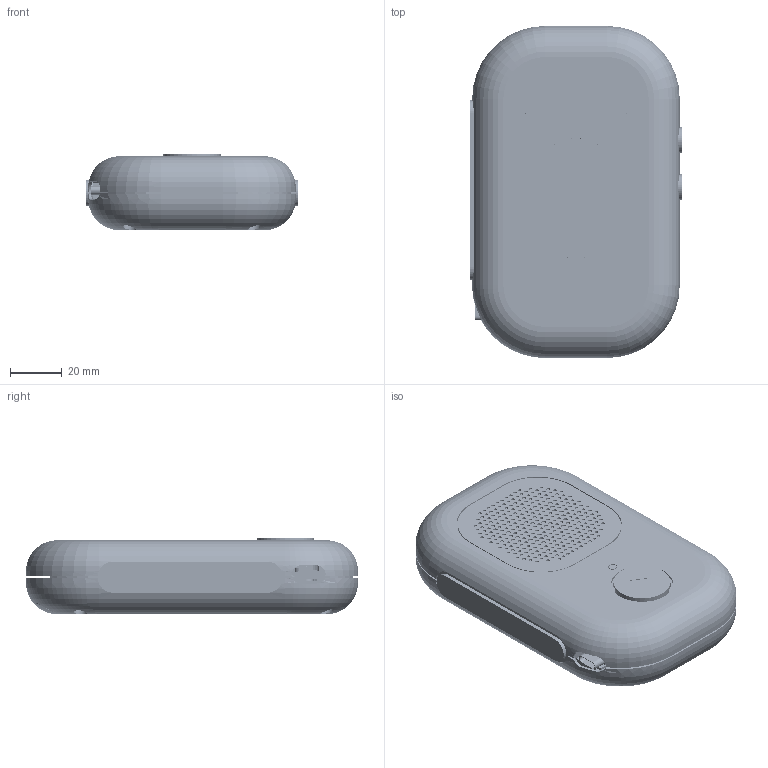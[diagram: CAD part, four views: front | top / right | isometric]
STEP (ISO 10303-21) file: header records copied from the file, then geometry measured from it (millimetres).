
FILE_DESCRIPTION(('Open CASCADE Model'),'2;1');
FILE_NAME('Open CASCADE Shape Model','2026-09-08T16:14:26',('Author'),( 'Open CASCADE'),'Open CASCADE STEP processor 7.7','Open CASCADE 7.7' ,'Unknown');
FILE_SCHEMA(('AUTOMOTIVE_DESIGN { 1 0 10303 214 1 1 1 1 }'));
Length unit declared in the file: millimetre
Products named in the file (112): Walkie_One_23_2_SWITCH_RETENTION_SR1; 13_volume_up_diaphragm; 13_volume_up_diaphragm_part; 15_battery_isolation; 15_battery_isolation_part; 18_M2x20_rear_2; 18_M2x20_rear_2_part; 18_M2x20_rear_3; 18_M2x20_rear_3_part; 11_status_lightpipe; 11_status_lightpipe_part; 08_play_guide; 08_play_guide_part; 18_M2x20_rear_4; 18_M2x20_rear_4_part; 13_volume_down_diaphragm; 13_volume_down_diaphragm_part; 19_speaker_cradle; 19_speaker_cradle_part; 09_play_cap; 09_play_cap_part; FRONT_SWITCH_REACTION_PLATE; FRONT_SWITCH_REACTION_PLATE_part; 21_RF_window_bond; 21_RF_window_bond_part; 10_play_actuator; 10_play_actuator_part; 13_PTT_diaphragm; 13_PTT_diaphragm_part; 12_volume_down_cap; 12_volume_down_cap_part; 03_insulating_chassis; 03_insulating_chassis_part; 16_PCB_rail_R; 16_PCB_rail_R_part; FRONT_SWITCH_GUIDE_AND_MOUNT; FRONT_SWITCH_GUIDE_AND_MOUNT_part; 05_perforated_grille; 05_perforated_grille_part; 02_rear_stainless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
Assembly tree (111 placements, depth 4):
  Walkie_One_23_2_SWITCH_RETENTION_SR1
    Walkie_One_23_2_SWITCH_RETENTION_SR1
      13_volume_up_diaphragm
        13_volume_up_diaphragm_part
      15_battery_isolation
        15_battery_isolation_part
      18_M2x20_rear_2
        18_M2x20_rear_2_part
      18_M2x20_rear_3
        18_M2x20_rear_3_part
      11_status_lightpipe
        11_status_lightpipe_part
      08_play_guide
        08_play_guide_part
      18_M2x20_rear_4
        18_M2x20_rear_4_part
      13_volume_down_diaphragm
        13_volume_down_diaphragm_part
      19_speaker_cradle
        19_speaker_cradle_part
      09_play_cap
        09_play_cap_part
      FRONT_SWITCH_REACTION_PLATE
        FRONT_SWITCH_REACTION_PLATE_part
      21_RF_window_bond
        21_RF_window_bond_part
      10_play_actuator
        10_play_actuator_part
      13_PTT_diaphragm
        13_PTT_diaphragm_part
      12_volume_down_cap
        12_volume_down_cap_part
      03_insulating_chassis
        03_insulating_chassis_part
      16_PCB_rail_R
        16_PCB_rail_R_part
      FRONT_SWITCH_GUIDE_AND_MOUNT
        FRONT_SWITCH_GUIDE_AND_MOUNT_part
      05_perforated_grille
        05_perforated_grille_part
      02_rear_stainless
        02_rear_stainless_part
      01_front_stainless
        01_front_stainless_part
      12_volume_up_cap
        12_volume_up_cap_part
      06_grille_support
        06_grille_support_part
      07_grille_bond
        07_grille_bond_part
      14_battery_tray
        14_battery_tray_part
      12_PTT_cap
        12_PTT_cap_part
      18_M2x20_rear_1
        18_M2x20_rear_1_part
      16_PCB_rail_L
        16_PCB_rail_L_part
      04_RF_rear_window
        04_RF_rear_window_part
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Bounding box: 81.4 x 128 x 29.4 mm (x, y, z)
Volume: 106595.8 mm3; surface area: 137825.8 mm2
Topology: 385 solids, 1750 shells, 16021 faces, 44611 edges, 30793 vertices
Faces by surface type: plane 11545, cylinder 2804, bspline 1534, torus 80, cone 30, sphere 28
Full cylindrical faces by diameter (mm): 0.3 x61, 0.375 x1, 0.5 x1, 0.6 x4, 0.75 x4, 0.813 x5, 0.9 x8, 1 x16, 1.4 x284, 1.5 x6, 1.7 x12, 1.8 x31, 1.96 x16, 2 x4, 2.2 x12, 2.8 x8, 3 x1, 3.6 x1, 3.7 x6, 3.8 x6, 4 x1, 4.4 x2, 4.6 x4, 5 x4, 5.4 x2, 5.6 x4, 6.8 x8, 7.6 x1, 10 x2, 11.8 x2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
Entity records: 1122321 total; most frequent: CARTESIAN_POINT 308164, DIRECTION 140920, LINE 97197, VECTOR 97197, ORIENTED_EDGE 80113, PCURVE 80113, DEFINITIONAL_REPRESENTATION 80113, EDGE_CURVE 44567
